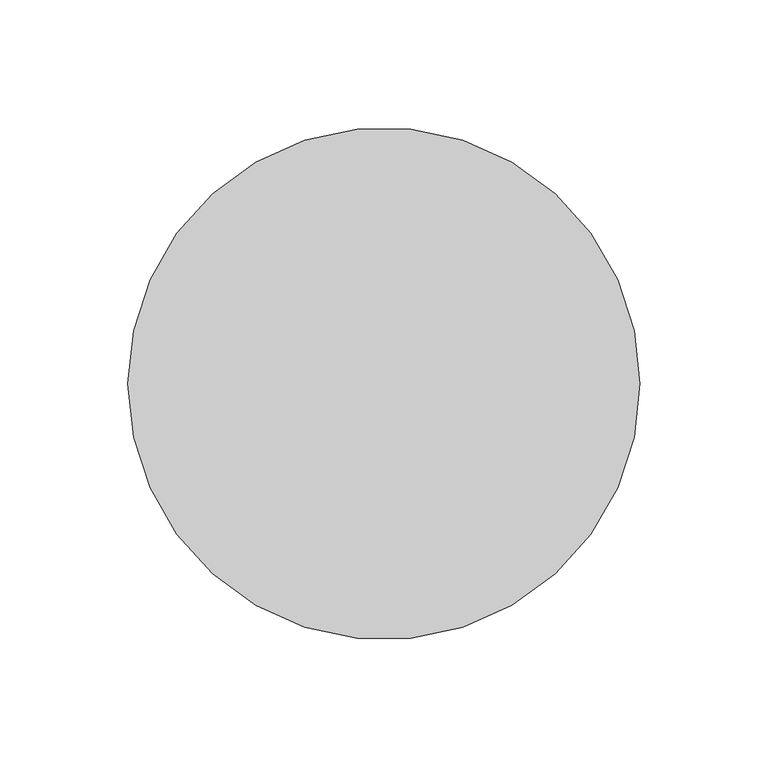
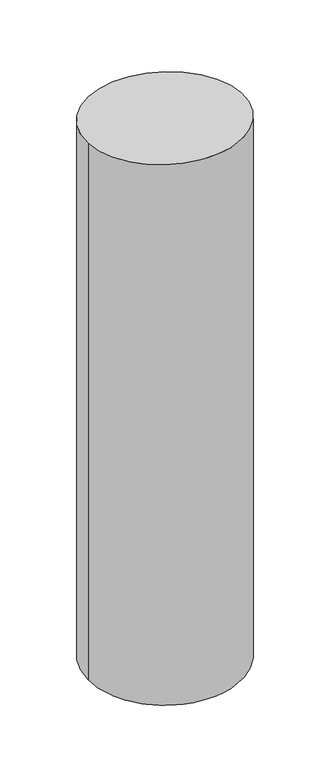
"""IFC4 building model written with IfcOpenShell, lengths in millimetres: member geometry, 矩形竖梃 : 圆瓦."""

from ifc_helpers import new_model, si_unit, frame, origin, origin_with_axes, place, context, project, spatial, circle_curve, ellipse_curve, source, transform, mapped, element, save
from ifc_brep_helpers import plane_surface, cylinder_surface, advanced_brep


def member_5ebe3699(model_context):
    return source(origin(), model_context, "Body", "AdvancedBrep", [
        advanced_brep(
        [(100.0, 0.0, -741.3270364), (-100.0, 0.0, -741.3270364), (-100.0, 0.0, 0.0), (100.0, 0.0, 0.0)],
        [
            (0, 1, circle_curve(frame((0.0, 0.0, -741.3270364), z_axis=(0.0, 0.0, -1.0), x_axis=(1.0, 0.0, 0.0)), 100.0)),
            (1, 0, circle_curve(frame((0.0, 0.0, -741.3270364), z_axis=(0.0, 0.0, -1.0), x_axis=(1.0, 0.0, 0.0)), 100.0)),
            (2, 3, ellipse_curve(frame((0.0, 0.0, 0.0), z_axis=(0.0, -0.06558371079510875, -0.9978470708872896), x_axis=(0.0, -0.9978470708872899, 0.06558371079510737)), 100.2157574, 100.0)),
            (3, 0),
            (1, 2),
            (3, 2, ellipse_curve(frame((0.0, 0.0, 0.0), z_axis=(0.0, -0.06558371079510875, -0.9978470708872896), x_axis=(0.0, -0.9978470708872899, 0.06558371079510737)), 100.2157574, 100.0)),
        ],
        [
            plane_surface(frame((0.0, -100.0, -741.3270364), z_axis=(0.0, 0.0, -1.0), x_axis=(-1.0, 0.0, 0.0))),
            cylinder_surface(origin_with_axes(), 100.0),
            plane_surface(frame((-304.8, 0.0, 0.0), z_axis=(0.0, 0.06558371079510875, 0.9978470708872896), x_axis=(0.0, 0.9978470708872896, -0.06558371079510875))),
        ],
        [
            (0, [[1, 2]]),
            (1, [[3, 4, -2, 5]]),
            (1, [[6, -5, -1, -4]]),
            (2, [[-3, -6]]),
        ],
    ),
    ])


if __name__ == "__main__":
    model = new_model("IFC4")
    model_context = context("Model", 3, world=origin())
    ifc_project = project(units=[si_unit("LENGTHUNIT", "METRE", prefix="MILLI")], contexts=[model_context])
    site = spatial("IfcSite", under=ifc_project)
    building = spatial("IfcBuilding", under=site)
    placement = place(None, origin())
    member_shape = member_5ebe3699(model_context)
    element("IfcMember", 1, ObjectType="矩形竖梃 : 圆瓦", at=placement, inside=building, context=model_context, shape_type="MappedRepresentation", body=[
        mapped(member_shape, transform((0.0, 0.0, 0.0), x_axis=(1.0, 0.0, 0.0), y_axis=(0.0, 1.0, 0.0), z_axis=(0.0, 0.0, 1.0))),
    ])
    save(model, "model.ifc")
